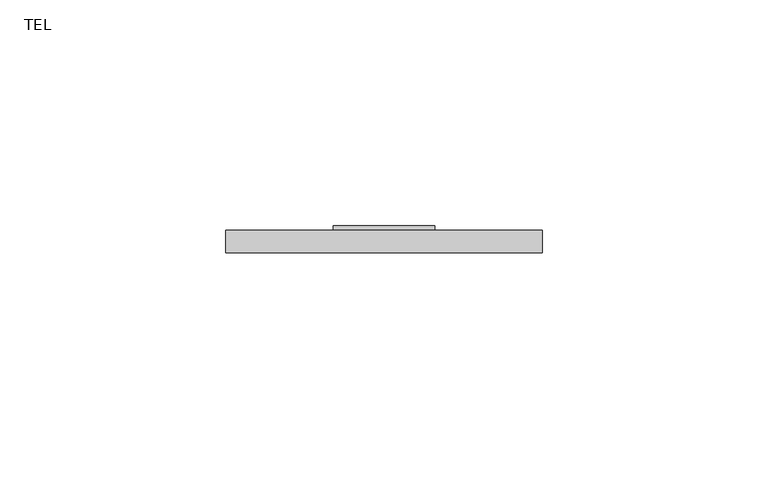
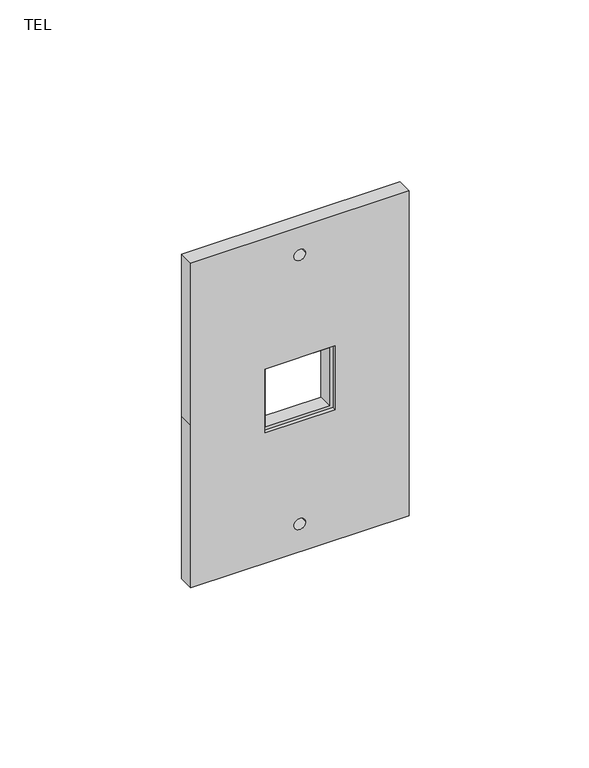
"""IFC4 building model written with IfcOpenShell, lengths in millimetres: proxy geometry, TEL : Contacto-comunicaciones."""

from ifc_helpers import new_model, si_unit, point, frame, frame_2d, origin, place, context, project, spatial, polyline, circle_curve, trimmed, segment, composite_curve, outline, extrude, source, transform, mapped, element, save


def tel_c70bc4c9(model_context):
    return source(origin(), model_context, "Body", "SweptSolid", [
        extrude(outline(polyline([(360.8125, 113.75), (339.1875, 113.75), (339.1875, 136.25), (360.8125, 136.25), (360.8125, 113.75)]), holes=[polyline([(359.8125, 135.25), (340.1875, 135.25), (340.1875, 114.75), (359.8125, 114.75), (359.8125, 135.25)])]), frame((0.0, 86.2025607, 0.0), z_axis=(0.0, 1.0, 0.0), x_axis=(0.0, 0.0, 1.0)), (0.0, 0.0, 1.0), 4.7658788),
        extrude(outline(polyline([(405.0, 160.0), (405.0, 90.0), (350.0, 90.0), (295.0, 90.0), (295.0, 160.0), (405.0, 160.0)]), holes=[composite_curve([segment(trimmed(circle_curve(frame_2d((395.5814465, 125.0)), 1.8475425), [point((395.5814465, 123.1524575))], [point((395.5814465, 126.8475425))], True, "CARTESIAN"), True, "CONTINUOUS"), segment(trimmed(circle_curve(frame_2d((395.5814465, 125.0)), 1.8475425), [point((395.5814465, 126.8475425))], [point((395.5814465, 123.1524575))], True, "CARTESIAN"), True, "CONTINUOUS")], self_intersect=False), composite_curve([segment(trimmed(circle_curve(frame_2d((304.4185535, 125.0)), 1.8475425), [point((304.4185535, 123.1524575))], [point((304.4185535, 126.8475425))], True, "CARTESIAN"), True, "CONTINUOUS"), segment(trimmed(circle_curve(frame_2d((304.4185535, 125.0)), 1.8475425), [point((304.4185535, 126.8475425))], [point((304.4185535, 123.1524575))], True, "CARTESIAN"), True, "CONTINUOUS")], self_intersect=False), polyline([(360.8125, 113.75), (360.8125, 136.25), (339.1875, 136.25), (339.1875, 113.75), (360.8125, 113.75)])]), frame((0.0, 85.0, 0.0), z_axis=(0.0, 1.0, 0.0), x_axis=(0.0, 0.0, 1.0)), (0.0, 0.0, 1.0), 5.0),
    ])


if __name__ == "__main__":
    model = new_model("IFC4")
    model_context = context("Model", 3, world=origin())
    ifc_project = project(units=[si_unit("LENGTHUNIT", "METRE", prefix="MILLI")], contexts=[model_context])
    site = spatial("IfcSite", under=ifc_project)
    building = spatial("IfcBuilding", under=site)
    placement = place(None, origin())
    tel_shape = tel_c70bc4c9(model_context)
    element("IfcBuildingElementProxy", 1, Name="TEL : Contacto-comunicaciones", ObjectType="TEL : Contacto-comunicaciones", at=placement, inside=building, context=model_context, shape_type="MappedRepresentation", body=[
        mapped(tel_shape, transform((0.0, 0.0, 0.0), x_axis=(1.0, 0.0, 0.0), y_axis=(0.0, 1.0, 0.0), z_axis=(0.0, 0.0, 1.0))),
    ])
    save(model, "model.ifc")
